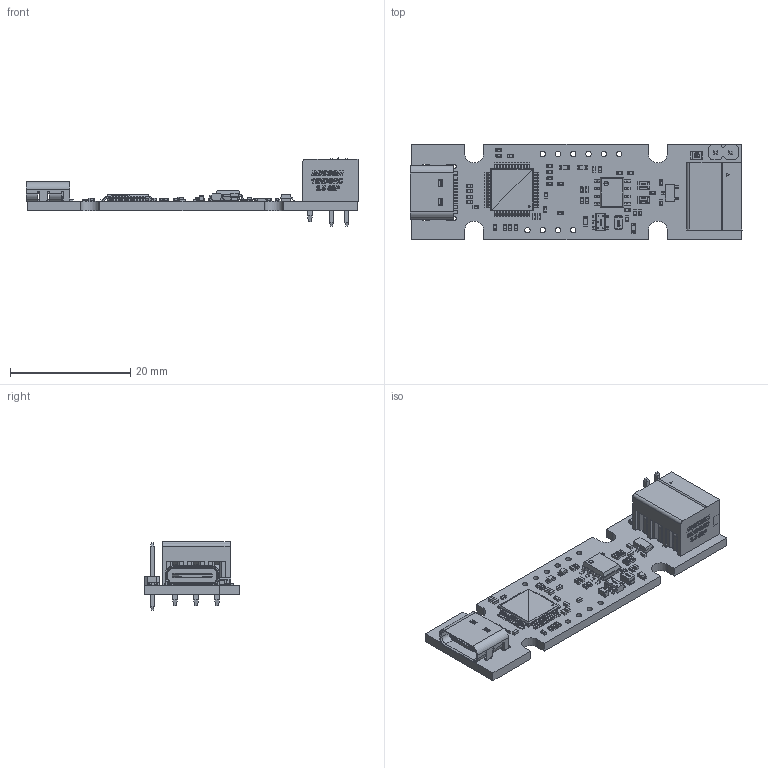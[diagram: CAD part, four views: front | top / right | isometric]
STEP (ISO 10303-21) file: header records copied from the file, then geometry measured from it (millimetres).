
FILE_DESCRIPTION(('Open CASCADE Model'),'2;1');
FILE_NAME('Open CASCADE Shape Model','2023-05-26T15:52:10',('Author'),( 'Open CASCADE'),'Open CASCADE STEP processor 7.5','Open CASCADE 7.5' ,'Unknown');
FILE_SCHEMA(('AUTOMOTIVE_DESIGN { 1 0 10303 214 1 1 1 1 }'));
Length unit declared in the file: millimetre
Products named in the file (155): Open CASCADE STEP translator 7.5 1; Open CASCADE STEP translator 7.5 2; Open CASCADE STEP translator 7.5 3; Open CASCADE STEP translator 7.5 4; Open CASCADE STEP translator 7.5 5; Open CASCADE STEP translator 7.5 6; Open CASCADE STEP translator 7.5 7; Open CASCADE STEP translator 7.5 8; Open CASCADE STEP translator 7.5 9; Open CASCADE STEP translator 7.5 10; Open CASCADE STEP translator 7.5 11; Open CASCADE STEP translator 7.5 12; Open CASCADE STEP translator 7.5 13; Open CASCADE STEP translator 7.5 14; Open CASCADE STEP translator 7.5 15; Open CASCADE STEP translator 7.5 16; Open CASCADE STEP translator 7.5 17; Open CASCADE STEP translator 7.5 18; Open CASCADE STEP translator 7.5 19; Open CASCADE STEP translator 7.5 20; Open CASCADE STEP translator 7.5 21; Open CASCADE STEP translator 7.5 22; Open CASCADE STEP translator 7.5 23; Open CASCADE STEP translator 7.5 24; Open CASCADE STEP translator 7.5 25; Open CASCADE STEP translator 7.5 26; Open CASCADE STEP translator 7.5 27; Open CASCADE STEP translator 7.5 28; Open CASCADE STEP translator 7.5 29; Open CASCADE STEP translator 7.5 30; Open CASCADE STEP translator 7.5 31; Open CASCADE STEP translator 7.5 32; Open CASCADE STEP translator 7.5 33; Open CASCADE STEP translator 7.5 34; Open CASCADE STEP translator 7.5 35; Open CASCADE STEP translator 7.5 36; Open CASCADE STEP translator 7.5 37; Open CASCADE STEP translator 7.5 38; Open CASCADE STEP translator 7.5 39; Open CASCADE STEP translator 7.5 40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
Bounding box: 55.22 x 15.93 x 11.34 mm (x, y, z)
Volume: 1845 mm3; surface area: 4371.2 mm2
Topology: 189 solids, 1696 shells, 5469 faces, 14235 edges, 10558 vertices
Faces by surface type: plane 3873, cylinder 733, bspline 690, sphere 144, torus 18, cone 11
Full cylindrical faces by diameter (mm): 0.7 x2, 0.9 x10, 1.02 x2, 1.4 x3
Entity records: 216991 total; most frequent: CARTESIAN_POINT 50364, DIRECTION 23630, ORIENTED_EDGE 23558, EDGE_CURVE 14035, LINE 11314, VECTOR 11314, VERTEX_POINT 10558, AXIS2_PLACEMENT_3D 6158
